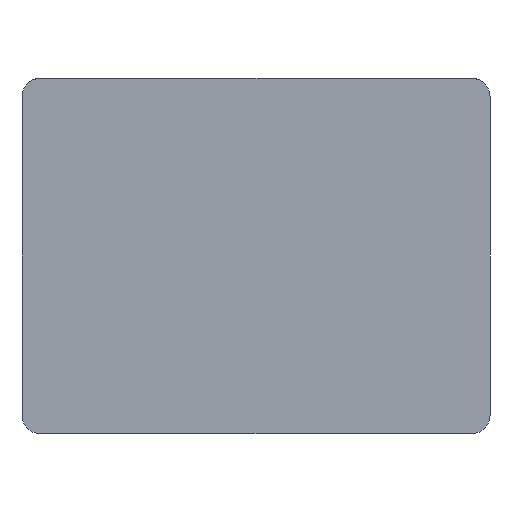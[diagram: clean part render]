
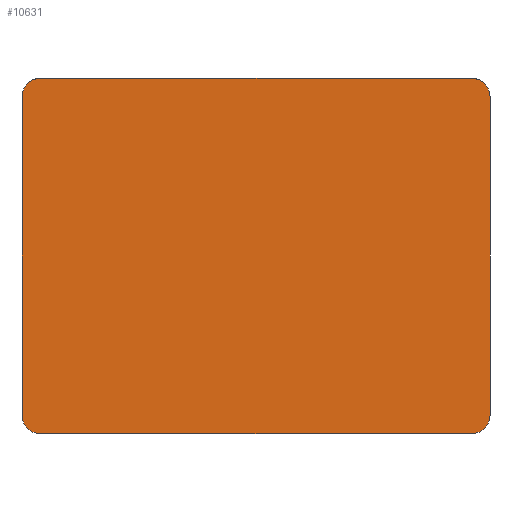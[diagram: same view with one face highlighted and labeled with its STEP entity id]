
A CAD part, left-side view. The second image highlights one B-rep face of the part: STEP entity #10631.
In plain terms, the highlighted planar face has unit normal (-1, 0, 0).
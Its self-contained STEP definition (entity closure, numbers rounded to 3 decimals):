
#1358=PLANE('',#10947);
#1912=FACE_OUTER_BOUND('',#2535,.T.);
#2535=EDGE_LOOP('',(#9832,#9833,#9834,#9835,#9836,#9837,#9838,#9839));
#3323=LINE('',#21425,#4108);
#3330=LINE('',#21465,#4115);
#3341=LINE('',#21507,#4126);
#3344=LINE('',#21516,#4129);
#4108=VECTOR('',#12159,10.);
#4115=VECTOR('',#12208,10.);
#4126=VECTOR('',#12259,10.);
#4129=VECTOR('',#12268,10.);
#4204=CIRCLE('',#10945,5.);
#4205=CIRCLE('',#10948,5.);
#4206=CIRCLE('',#10949,5.);
#4207=CIRCLE('',#10950,5.);
#5226=VERTEX_POINT('',#21419);
#5228=VERTEX_POINT('',#21423);
#5239=VERTEX_POINT('',#21462);
#5240=VERTEX_POINT('',#21464);
#5250=VERTEX_POINT('',#21502);
#5251=VERTEX_POINT('',#21506);
#5253=VERTEX_POINT('',#21513);
#5254=VERTEX_POINT('',#21515);
#6756=EDGE_CURVE('',#5228,#5226,#3323,.T.);
#6770=EDGE_CURVE('',#5239,#5240,#3330,.T.);
#6790=EDGE_CURVE('',#5240,#5250,#4204,.T.);
#6792=EDGE_CURVE('',#5250,#5251,#3341,.T.);
#6795=EDGE_CURVE('',#5226,#5239,#4205,.T.);
#6796=EDGE_CURVE('',#5253,#5228,#4206,.T.);
#6797=EDGE_CURVE('',#5254,#5253,#3344,.T.);
#6798=EDGE_CURVE('',#5251,#5254,#4207,.T.);
#9832=ORIENTED_EDGE('',*,*,#6790,.F.);
#9833=ORIENTED_EDGE('',*,*,#6770,.F.);
#9834=ORIENTED_EDGE('',*,*,#6795,.F.);
#9835=ORIENTED_EDGE('',*,*,#6756,.F.);
#9836=ORIENTED_EDGE('',*,*,#6796,.F.);
#9837=ORIENTED_EDGE('',*,*,#6797,.F.);
#9838=ORIENTED_EDGE('',*,*,#6798,.F.);
#9839=ORIENTED_EDGE('',*,*,#6792,.F.);
#10631=ADVANCED_FACE('',(#1912),#1358,.F.);
#10945=AXIS2_PLACEMENT_3D('',#21503,#12254,#12255);
#10947=AXIS2_PLACEMENT_3D('',#21511,#12262,#12263);
#10948=AXIS2_PLACEMENT_3D('',#21512,#12264,#12265);
#10949=AXIS2_PLACEMENT_3D('',#21514,#12266,#12267);
#10950=AXIS2_PLACEMENT_3D('',#21517,#12269,#12270);
#12159=DIRECTION('',(0.,0.,-1.));
#12208=DIRECTION('',(0.,1.,0.));
#12254=DIRECTION('center_axis',(1.,0.,0.));
#12255=DIRECTION('ref_axis',(0.,0.707,-0.707));
#12259=DIRECTION('',(0.,0.,1.));
#12262=DIRECTION('center_axis',(1.,0.,0.));
#12263=DIRECTION('ref_axis',(0.,1.,0.));
#12264=DIRECTION('center_axis',(1.,0.,0.));
#12265=DIRECTION('ref_axis',(0.,-0.707,-0.707));
#12266=DIRECTION('center_axis',(1.,0.,0.));
#12267=DIRECTION('ref_axis',(0.,-0.707,0.707));
#12268=DIRECTION('',(0.,-1.,0.));
#12269=DIRECTION('center_axis',(1.,0.,0.));
#12270=DIRECTION('ref_axis',(0.,0.707,0.707));
#21419=CARTESIAN_POINT('',(0.,0.,5.));
#21423=CARTESIAN_POINT('',(0.,0.,90.));
#21425=CARTESIAN_POINT('',(0.,0.,95.));
#21462=CARTESIAN_POINT('',(0.,5.,0.));
#21464=CARTESIAN_POINT('',(0.,120.,0.));
#21465=CARTESIAN_POINT('',(0.,0.,0.));
#21502=CARTESIAN_POINT('',(0.,125.,5.));
#21503=CARTESIAN_POINT('Origin',(0.,120.,5.));
#21506=CARTESIAN_POINT('',(0.,125.,90.));
#21507=CARTESIAN_POINT('',(0.,125.,0.));
#21511=CARTESIAN_POINT('Origin',(0.,62.5,47.5));
#21512=CARTESIAN_POINT('Origin',(0.,5.,5.));
#21513=CARTESIAN_POINT('',(0.,5.,95.));
#21514=CARTESIAN_POINT('Origin',(0.,5.,90.));
#21515=CARTESIAN_POINT('',(0.,120.,95.));
#21516=CARTESIAN_POINT('',(0.,125.,95.));
#21517=CARTESIAN_POINT('Origin',(0.,120.,90.));
